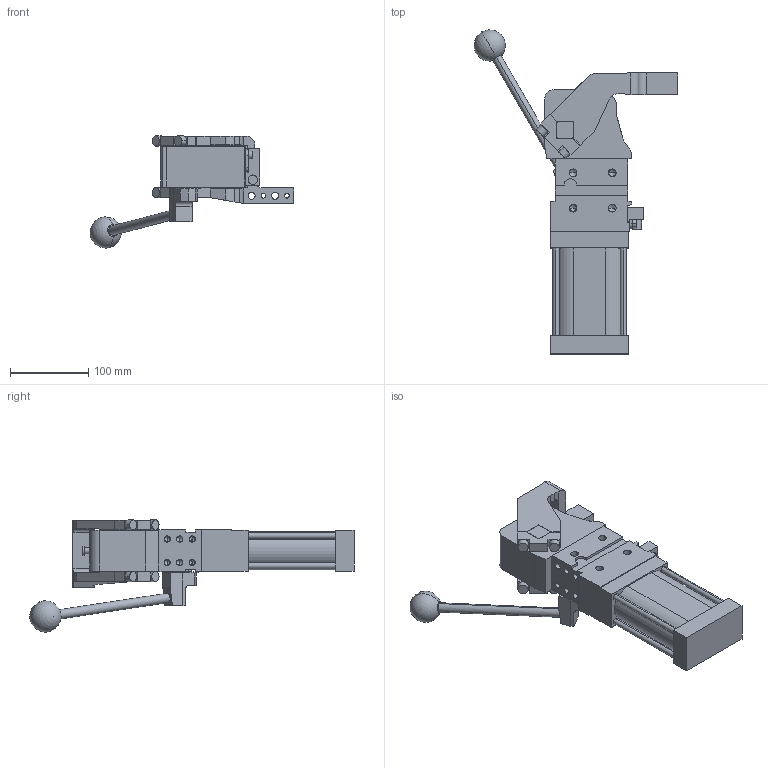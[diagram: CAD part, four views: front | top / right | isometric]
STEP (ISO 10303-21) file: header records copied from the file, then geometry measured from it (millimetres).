
FILE_DESCRIPTION (( 'STEP AP214' ), '1' );
FILE_NAME ('cplm63lbv3dsi1g_26.STEP', '2023-01-26T14:54:51', ( '' ), ( '' ), 'SwSTEP 2.0', 'SolidWorks 2022', '' );
FILE_SCHEMA (( 'AUTOMOTIVE_DESIGN' ));
Length unit declared in the file: millimetre
Products named in the file (5): leva_sx_offset_45_cpl63; comando_manuale_cplm_63; meccanica_cplm_63; blocchetto_VEP_0; cplm63lbv3dsi1g_26
Assembly tree (4 placements, depth 2):
  cplm63lbv3dsi1g_26
    meccanica_cplm_63
    blocchetto_VEP_0
    leva_sx_offset_45_cpl63
    comando_manuale_cplm_63
Bounding box: 260.54 x 414.46 x 143.5 mm (x, y, z)
Volume: 1888099.3 mm3; surface area: 211431.7 mm2
Topology: 4 solids, 4 shells, 432 faces, 1134 edges, 703 vertices
Faces by surface type: plane 219, cylinder 161, cone 50, sphere 2
Entity records: 14577 total; most frequent: CARTESIAN_POINT 2322, DIRECTION 2302, ORIENTED_EDGE 2166, EDGE_CURVE 1083, AXIS2_PLACEMENT_3D 794, VECTOR 714, LINE 714, VERTEX_POINT 700
